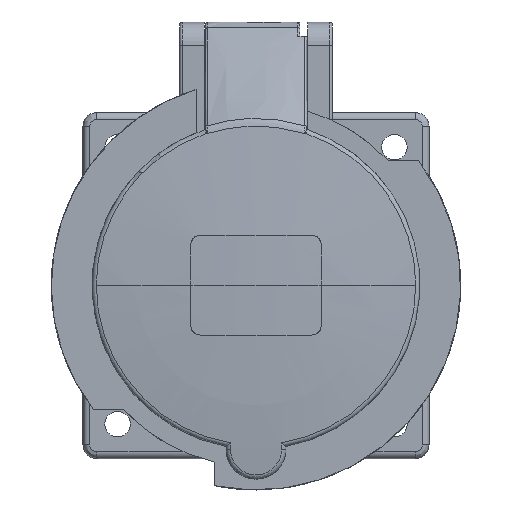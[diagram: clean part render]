
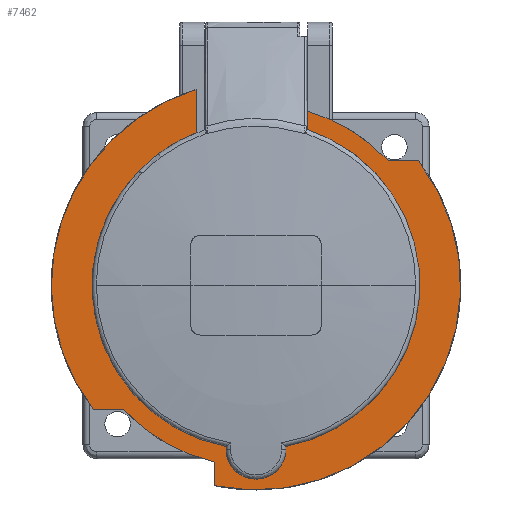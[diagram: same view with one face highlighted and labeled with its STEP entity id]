
A CAD part, top view. The second image highlights one B-rep face of the part: STEP entity #7462.
In plain terms, the highlighted planar face has unit normal (0, 0, 1).
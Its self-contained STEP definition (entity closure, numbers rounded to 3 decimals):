
#7245 = VERTEX_POINT('',#7246);
#7246 = CARTESIAN_POINT('',(11.2,37.722,48.5));
#7254 = EDGE_CURVE('',#7255,#7245,#7257,.T.);
#7255 = VERTEX_POINT('',#7256);
#7256 = CARTESIAN_POINT('',(28.626,27.,48.5));
#7257 = CIRCLE('',#7258,39.35);
#7258 = AXIS2_PLACEMENT_3D('',#7259,#7260,#7261);
#7259 = CARTESIAN_POINT('',(0.,0.,48.5));
#7260 = DIRECTION('',(0.,0.,1.));
#7261 = DIRECTION('',(0.727,0.686,-0.));
#7331 = VERTEX_POINT('',#7332);
#7332 = CARTESIAN_POINT('',(-9.,-38.307,48.5));
#7338 = EDGE_CURVE('',#7339,#7331,#7341,.T.);
#7339 = VERTEX_POINT('',#7340);
#7340 = CARTESIAN_POINT('',(-28.626,-27.,48.5));
#7341 = CIRCLE('',#7342,39.35);
#7342 = AXIS2_PLACEMENT_3D('',#7343,#7344,#7345);
#7343 = CARTESIAN_POINT('',(0.,0.,48.5));
#7344 = DIRECTION('',(0.,0.,1.));
#7345 = DIRECTION('',(-0.727,-0.686,0.));
#7443 = VERTEX_POINT('',#7444);
#7444 = CARTESIAN_POINT('',(11.2,34.7,48.5));
#7450 = EDGE_CURVE('',#7245,#7443,#7451,.T.);
#7451 = LINE('',#7452,#7453);
#7452 = CARTESIAN_POINT('',(11.2,37.722,48.5));
#7453 = VECTOR('',#7454,1.);
#7454 = DIRECTION('',(0.,-1.,0.));
#7462 = ADVANCED_FACE('',(#7463),#7549,.F.);
#7463 = FACE_BOUND('',#7464,.T.);
#7464 = EDGE_LOOP('',(#7465,#7473,#7474,#7475,#7483,#7492,#7501,#7510,
    #7518,#7527,#7533,#7534,#7542));
#7465 = ORIENTED_EDGE('',*,*,#7466,.T.);
#7466 = EDGE_CURVE('',#7467,#7255,#7469,.T.);
#7467 = VERTEX_POINT('',#7468);
#7468 = CARTESIAN_POINT('',(35.184,27.,48.5));
#7469 = LINE('',#7470,#7471);
#7470 = CARTESIAN_POINT('',(35.184,27.,48.5));
#7471 = VECTOR('',#7472,1.);
#7472 = DIRECTION('',(-1.,0.,0.));
#7473 = ORIENTED_EDGE('',*,*,#7254,.T.);
#7474 = ORIENTED_EDGE('',*,*,#7450,.T.);
#7475 = ORIENTED_EDGE('',*,*,#7476,.T.);
#7476 = EDGE_CURVE('',#7443,#7477,#7479,.T.);
#7477 = VERTEX_POINT('',#7478);
#7478 = CARTESIAN_POINT('',(11.2,33.687,48.5));
#7479 = LINE('',#7480,#7481);
#7480 = CARTESIAN_POINT('',(11.2,34.7,48.5));
#7481 = VECTOR('',#7482,1.);
#7482 = DIRECTION('',(0.,-1.,0.));
#7483 = ORIENTED_EDGE('',*,*,#7484,.F.);
#7484 = EDGE_CURVE('',#7485,#7477,#7487,.T.);
#7485 = VERTEX_POINT('',#7486);
#7486 = CARTESIAN_POINT('',(6.473,-34.905,48.5));
#7487 = CIRCLE('',#7488,35.5);
#7488 = AXIS2_PLACEMENT_3D('',#7489,#7490,#7491);
#7489 = CARTESIAN_POINT('',(0.,0.,48.5));
#7490 = DIRECTION('',(0.,0.,1.));
#7491 = DIRECTION('',(0.182,-0.983,0.));
#7492 = ORIENTED_EDGE('',*,*,#7493,.F.);
#7493 = EDGE_CURVE('',#7494,#7485,#7496,.T.);
#7494 = VERTEX_POINT('',#7495);
#7495 = CARTESIAN_POINT('',(-6.473,-34.905,48.5));
#7496 = CIRCLE('',#7497,6.5);
#7497 = AXIS2_PLACEMENT_3D('',#7498,#7499,#7500);
#7498 = CARTESIAN_POINT('',(0.,-35.5,48.5));
#7499 = DIRECTION('',(0.,0.,1.));
#7500 = DIRECTION('',(-0.996,0.092,0.));
#7501 = ORIENTED_EDGE('',*,*,#7502,.F.);
#7502 = EDGE_CURVE('',#7503,#7494,#7505,.T.);
#7503 = VERTEX_POINT('',#7504);
#7504 = CARTESIAN_POINT('',(-13.,33.034,48.5));
#7505 = CIRCLE('',#7506,35.5);
#7506 = AXIS2_PLACEMENT_3D('',#7507,#7508,#7509);
#7507 = CARTESIAN_POINT('',(0.,0.,48.5));
#7508 = DIRECTION('',(0.,0.,1.));
#7509 = DIRECTION('',(-0.366,0.931,0.));
#7510 = ORIENTED_EDGE('',*,*,#7511,.T.);
#7511 = EDGE_CURVE('',#7503,#7512,#7514,.T.);
#7512 = VERTEX_POINT('',#7513);
#7513 = CARTESIAN_POINT('',(-13.,42.402,48.5));
#7514 = LINE('',#7515,#7516);
#7515 = CARTESIAN_POINT('',(-13.,33.034,48.5));
#7516 = VECTOR('',#7517,1.);
#7517 = DIRECTION('',(0.,1.,0.));
#7518 = ORIENTED_EDGE('',*,*,#7519,.T.);
#7519 = EDGE_CURVE('',#7512,#7520,#7522,.T.);
#7520 = VERTEX_POINT('',#7521);
#7521 = CARTESIAN_POINT('',(-35.184,-27.,48.5));
#7522 = CIRCLE('',#7523,44.35);
#7523 = AXIS2_PLACEMENT_3D('',#7524,#7525,#7526);
#7524 = CARTESIAN_POINT('',(0.,0.,48.5));
#7525 = DIRECTION('',(0.,0.,1.));
#7526 = DIRECTION('',(-0.293,0.956,0.));
#7527 = ORIENTED_EDGE('',*,*,#7528,.T.);
#7528 = EDGE_CURVE('',#7520,#7339,#7529,.T.);
#7529 = LINE('',#7530,#7531);
#7530 = CARTESIAN_POINT('',(-35.184,-27.,48.5));
#7531 = VECTOR('',#7532,1.);
#7532 = DIRECTION('',(1.,0.,0.));
#7533 = ORIENTED_EDGE('',*,*,#7338,.T.);
#7534 = ORIENTED_EDGE('',*,*,#7535,.F.);
#7535 = EDGE_CURVE('',#7536,#7331,#7538,.T.);
#7536 = VERTEX_POINT('',#7537);
#7537 = CARTESIAN_POINT('',(-9.,-43.427,48.5));
#7538 = LINE('',#7539,#7540);
#7539 = CARTESIAN_POINT('',(-9.,-43.427,48.5));
#7540 = VECTOR('',#7541,1.);
#7541 = DIRECTION('',(0.,1.,0.));
#7542 = ORIENTED_EDGE('',*,*,#7543,.T.);
#7543 = EDGE_CURVE('',#7536,#7467,#7544,.T.);
#7544 = CIRCLE('',#7545,44.35);
#7545 = AXIS2_PLACEMENT_3D('',#7546,#7547,#7548);
#7546 = CARTESIAN_POINT('',(0.,0.,48.5));
#7547 = DIRECTION('',(0.,0.,1.));
#7548 = DIRECTION('',(-0.203,-0.979,0.));
#7549 = PLANE('',#7550);
#7550 = AXIS2_PLACEMENT_3D('',#7551,#7552,#7553);
#7551 = CARTESIAN_POINT('',(0.,0.,48.5));
#7552 = DIRECTION('',(0.,0.,-1.));
#7553 = DIRECTION('',(1.,0.,0.));
